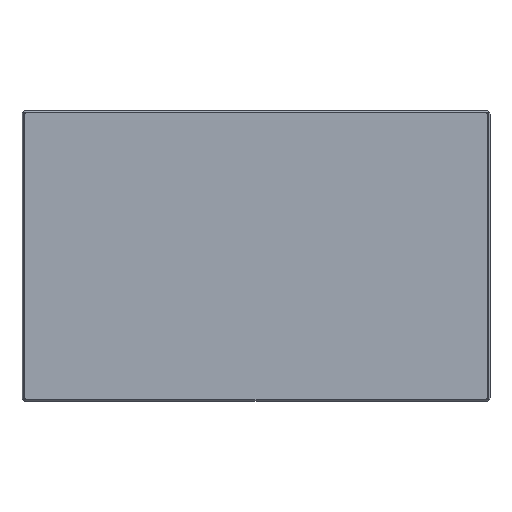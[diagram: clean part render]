
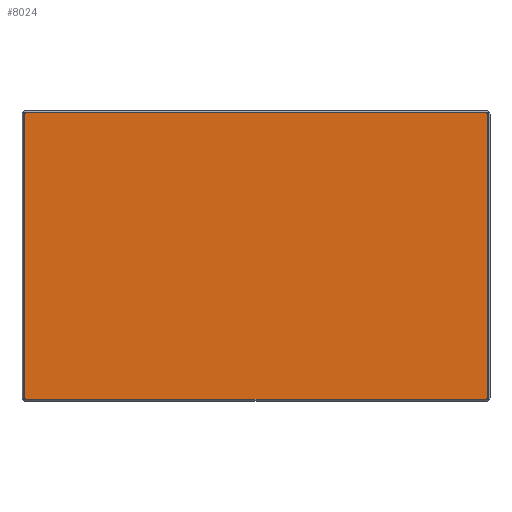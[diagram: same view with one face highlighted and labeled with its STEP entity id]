
A CAD part, top view. The second image highlights one B-rep face of the part: STEP entity #8024.
In plain terms, the highlighted planar face has unit normal (0, 0, 1).
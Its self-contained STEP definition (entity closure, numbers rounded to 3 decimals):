
#330=CARTESIAN_POINT('',(-262.3,-161.3,7.8));
#331=DIRECTION('',(0.,0.,-1.));
#332=DIRECTION('',(0.,-1.,0.));
#333=AXIS2_PLACEMENT_3D('',#330,#331,#332);
#335=CARTESIAN_POINT('',(-262.3,161.3,7.8));
#336=DIRECTION('',(0.,0.,-1.));
#337=DIRECTION('',(-1.,0.,0.));
#338=AXIS2_PLACEMENT_3D('',#335,#336,#337);
#340=CARTESIAN_POINT('',(262.3,161.3,7.8));
#341=DIRECTION('',(0.,0.,-1.));
#342=DIRECTION('',(0.,1.,0.));
#343=AXIS2_PLACEMENT_3D('',#340,#341,#342);
#345=CARTESIAN_POINT('',(262.3,-161.3,7.8));
#346=DIRECTION('',(0.,0.,-1.));
#347=DIRECTION('',(1.,0.,0.));
#348=AXIS2_PLACEMENT_3D('',#345,#346,#347);
#359=DIRECTION('',(1.,0.,0.));
#360=VECTOR('',#359,524.6);
#361=CARTESIAN_POINT('',(-262.3,-162.75,7.8));
#362=LINE('',#361,#360);
#376=DIRECTION('',(0.,1.,0.));
#377=VECTOR('',#376,322.6);
#378=CARTESIAN_POINT('',(263.75,-161.3,7.8));
#379=LINE('',#378,#377);
#428=DIRECTION('',(0.,-1.,0.));
#429=VECTOR('',#428,322.6);
#430=CARTESIAN_POINT('',(-263.75,161.3,7.8));
#431=LINE('',#430,#429);
#461=DIRECTION('',(-1.,0.,0.));
#462=VECTOR('',#461,524.6);
#463=CARTESIAN_POINT('',(262.3,162.75,7.8));
#464=LINE('',#463,#462);
#5939=CARTESIAN_POINT('',(262.3,162.75,7.8));
#5940=CARTESIAN_POINT('',(263.75,161.3,7.8));
#5941=VERTEX_POINT('',#5939);
#5942=VERTEX_POINT('',#5940);
#5943=CARTESIAN_POINT('',(-262.3,-162.75,7.8));
#5944=CARTESIAN_POINT('',(-263.75,-161.3,7.8));
#5945=VERTEX_POINT('',#5943);
#5946=VERTEX_POINT('',#5944);
#5947=CARTESIAN_POINT('',(-263.75,161.3,7.8));
#5948=VERTEX_POINT('',#5947);
#5949=CARTESIAN_POINT('',(-262.3,162.75,7.8));
#5950=VERTEX_POINT('',#5949);
#5951=CARTESIAN_POINT('',(263.75,-161.3,7.8));
#5952=VERTEX_POINT('',#5951);
#5953=CARTESIAN_POINT('',(262.3,-162.75,7.8));
#5954=VERTEX_POINT('',#5953);
#8002=CARTESIAN_POINT('',(0.,0.,7.8));
#8003=DIRECTION('',(0.,0.,1.));
#8004=DIRECTION('',(1.,0.,0.));
#8005=AXIS2_PLACEMENT_3D('',#8002,#8003,#8004);
#8006=PLANE('',#8005);
#8008=ORIENTED_EDGE('',*,*,#8007,.T.);
#8010=ORIENTED_EDGE('',*,*,#8009,.F.);
#8012=ORIENTED_EDGE('',*,*,#8011,.T.);
#8014=ORIENTED_EDGE('',*,*,#8013,.F.);
#8015=ORIENTED_EDGE('',*,*,#7992,.T.);
#8017=ORIENTED_EDGE('',*,*,#8016,.F.);
#8019=ORIENTED_EDGE('',*,*,#8018,.T.);
#8021=ORIENTED_EDGE('',*,*,#8020,.F.);
#8022=EDGE_LOOP('',(#8008,#8010,#8012,#8014,#8015,#8017,#8019,#8021));
#8023=FACE_OUTER_BOUND('',#8022,.F.);
#8024=ADVANCED_FACE('',(#8023),#8006,.T.);
#334=CIRCLE('',#333,1.45);
#339=CIRCLE('',#338,1.45);
#344=CIRCLE('',#343,1.45);
#349=CIRCLE('',#348,1.45);
#7992=EDGE_CURVE('',#5941,#5942,#344,.T.);
#8007=EDGE_CURVE('',#5945,#5946,#334,.T.);
#8009=EDGE_CURVE('',#5948,#5946,#431,.T.);
#8011=EDGE_CURVE('',#5948,#5950,#339,.T.);
#8013=EDGE_CURVE('',#5941,#5950,#464,.T.);
#8016=EDGE_CURVE('',#5952,#5942,#379,.T.);
#8018=EDGE_CURVE('',#5952,#5954,#349,.T.);
#8020=EDGE_CURVE('',#5945,#5954,#362,.T.);
